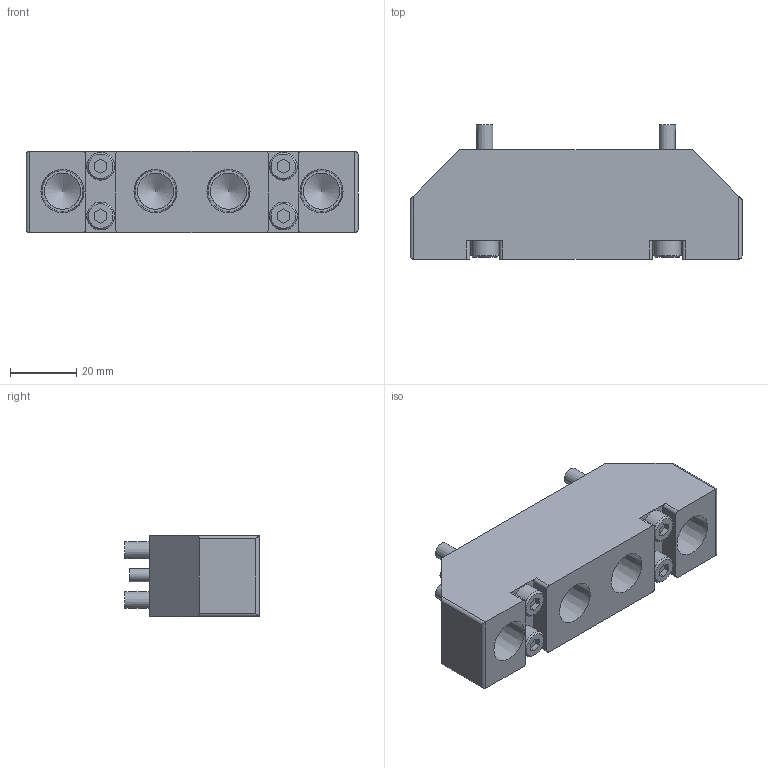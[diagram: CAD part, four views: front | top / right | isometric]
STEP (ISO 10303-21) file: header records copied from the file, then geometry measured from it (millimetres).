
FILE_DESCRIPTION(('STEP AP214'),'1');
FILE_NAME('KHB-45_300RS-EP84_ver1.stp','2026-04-27T05:48:42',(' '),(' '),'Spatial InterOp 3D',' ',' ');
FILE_SCHEMA(('AUTOMOTIVE_DESIGN { 1 0 10303 214 1 1 1 1 }'));
Length unit declared in the file: millimetre
Products named in the file (3): KHB-45~300RS-EP84_ver1; パーツ1
Assembly tree (2 placements, depth 2):
  KHB-45~300RS-EP84_ver1
    パーツ1
    パーツ1
Bounding box: 100 x 40.5 x 24.5 mm (x, y, z)
Volume: 63254 mm3; surface area: 20809.7 mm2
Topology: 2 solids, 3 shells, 123 faces, 287 edges, 188 vertices
Faces by surface type: plane 68, cylinder 39, cone 16
Full cylindrical faces by diameter (mm): 4 x3, 5 x4, 5.5 x4, 8.385 x4, 9 x4, 10.9 x4
Entity records: 4520 total; most frequent: CARTESIAN_POINT 846, DIRECTION 560, ORIENTED_EDGE 452, EDGE_CURVE 226, AXIS2_PLACEMENT_3D 212, EDGE_LOOP 192, VERTEX_POINT 174, FACE_OUTER_BOUND 146
